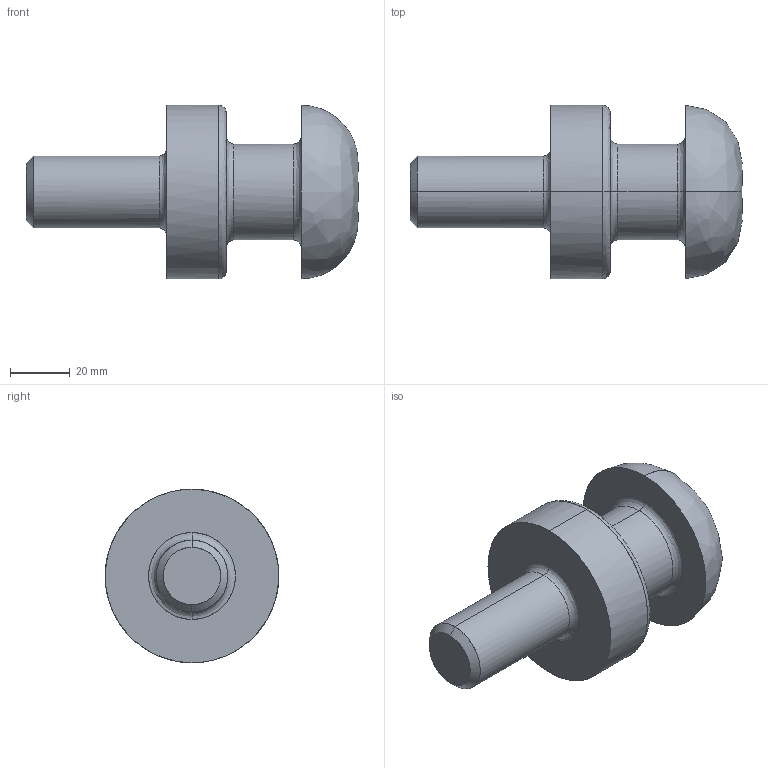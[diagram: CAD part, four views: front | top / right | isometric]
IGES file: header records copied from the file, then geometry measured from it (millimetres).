
Global section: file name: E:\UnigraphicsGraphicData\MISUMI_PRESS-PARTS\IGES\3d_chn24_03540_r00.igs; native system: NX V5.0; preprocessor: UGS NX IGES V5.0; author: MISUMI; date: 20110105.160220; units: millimetre
Bounding box: 111 x 58 x 58 mm (x, y, z)
Surface area: 20741 mm2 (no closed solid volume)
Topology: 0 solids, 0 shells, 35 faces, 246 edges, 246 vertices
Faces by surface type: bspline 35
